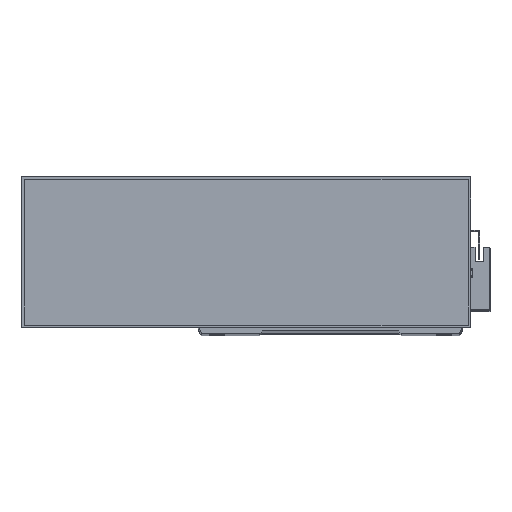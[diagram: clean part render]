
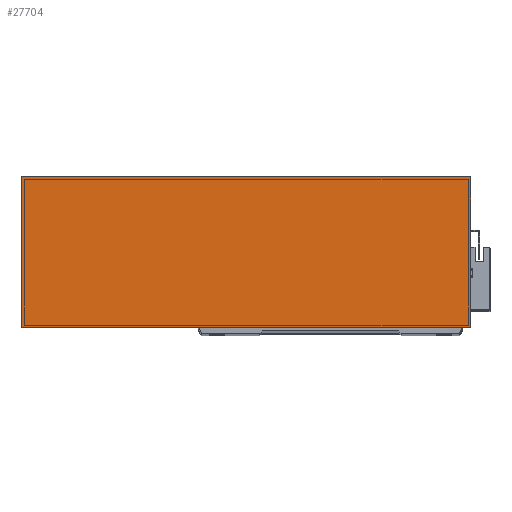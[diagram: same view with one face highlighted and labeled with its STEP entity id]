
A CAD part, top view. The second image highlights one B-rep face of the part: STEP entity #27704.
In plain terms, the highlighted planar face has unit normal (0, 0, 1).
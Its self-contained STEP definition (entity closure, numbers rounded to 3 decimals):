
#81 = VERTEX_POINT ( 'NONE', #11964 ) ;
#291 = EDGE_LOOP ( 'NONE', ( #4477, #27690, #9611, #24323 ) ) ;
#571 = CARTESIAN_POINT ( 'NONE',  ( 277., 93., 50. ) ) ;
#1356 = EDGE_CURVE ( 'NONE', #3784, #81, #12737, .T. ) ;
#3094 = CARTESIAN_POINT ( 'NONE',  ( 277., 0., 50. ) ) ;
#3784 = VERTEX_POINT ( 'NONE', #571 ) ;
#4468 = EDGE_CURVE ( 'NONE', #5254, #3784, #10953, .T. ) ;
#4477 = ORIENTED_EDGE ( 'NONE', *, *, #20650, .T. ) ;
#5073 = VECTOR ( 'NONE', #17651, 1000. ) ;
#5254 = VERTEX_POINT ( 'NONE', #19903 ) ;
#5366 = CARTESIAN_POINT ( 'NONE',  ( 0., 93., 50. ) ) ;
#5750 = DIRECTION ( 'NONE',  ( -1., 0., 0. ) ) ;
#5891 = CARTESIAN_POINT ( 'NONE',  ( 0., 0., 50. ) ) ;
#6990 = LINE ( 'NONE', #20754, #23174 ) ;
#9086 = LINE ( 'NONE', #28569, #26701 ) ;
#9611 = ORIENTED_EDGE ( 'NONE', *, *, #4468, .T. ) ;
#10953 = LINE ( 'NONE', #3094, #5073 ) ;
#11896 = DIRECTION ( 'NONE',  ( 1., 0., 0. ) ) ;
#11964 = CARTESIAN_POINT ( 'NONE',  ( 0., 93., 50. ) ) ;
#12538 = PLANE ( 'NONE',  #26712 ) ;
#12737 = LINE ( 'NONE', #5366, #19287 ) ;
#14753 = DIRECTION ( 'NONE',  ( -1., 0., 0. ) ) ;
#15295 = DIRECTION ( 'NONE',  ( 0., -1., 0. ) ) ;
#15484 = VERTEX_POINT ( 'NONE', #20305 ) ;
#17651 = DIRECTION ( 'NONE',  ( 0., 1., 0. ) ) ;
#19287 = VECTOR ( 'NONE', #5750, 1000. ) ;
#19903 = CARTESIAN_POINT ( 'NONE',  ( 277., 0., 50. ) ) ;
#20305 = CARTESIAN_POINT ( 'NONE',  ( 0., 0., 50. ) ) ;
#20650 = EDGE_CURVE ( 'NONE', #81, #15484, #9086, .T. ) ;
#20754 = CARTESIAN_POINT ( 'NONE',  ( 0., 0., 50. ) ) ;
#23158 = EDGE_CURVE ( 'NONE', #15484, #5254, #6990, .T. ) ;
#23174 = VECTOR ( 'NONE', #11896, 1000. ) ;
#23673 = FACE_OUTER_BOUND ( 'NONE', #291, .T. ) ;
#24323 = ORIENTED_EDGE ( 'NONE', *, *, #1356, .T. ) ;
#26701 = VECTOR ( 'NONE', #15295, 1000. ) ;
#26712 = AXIS2_PLACEMENT_3D ( 'NONE', #5891, #28035, #14753 ) ;
#27690 = ORIENTED_EDGE ( 'NONE', *, *, #23158, .T. ) ;
#27704 = ADVANCED_FACE ( 'NONE', ( #23673 ), #12538, .F. ) ;
#28035 = DIRECTION ( 'NONE',  ( 0., 0., -1. ) ) ;
#28569 = CARTESIAN_POINT ( 'NONE',  ( 0., 0., 50. ) ) ;
